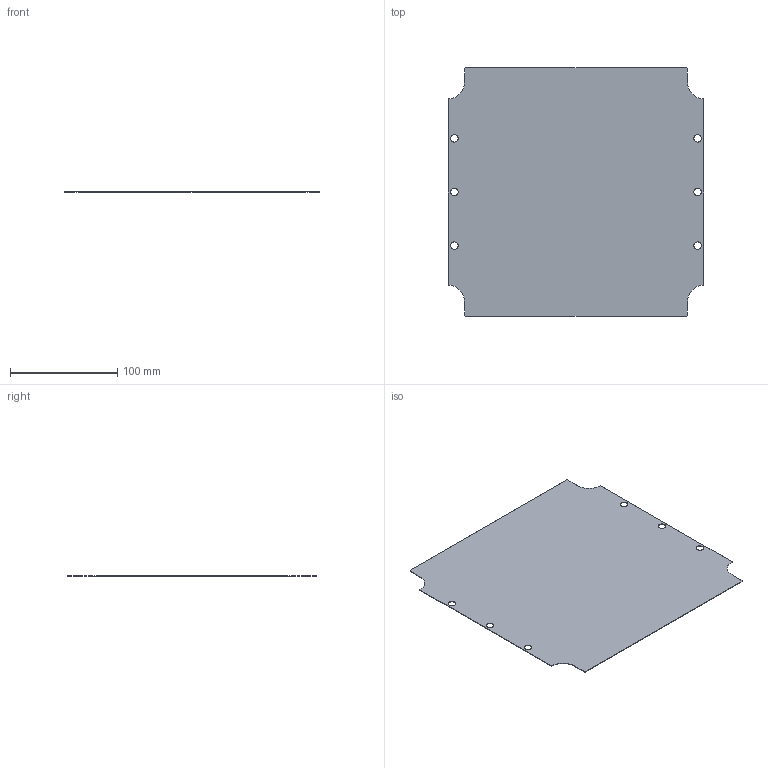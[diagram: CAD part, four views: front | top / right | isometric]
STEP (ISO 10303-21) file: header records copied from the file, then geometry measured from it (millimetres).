
FILE_DESCRIPTION((''),'2;1');
FILE_NAME('c:\temp\235PL.stp','2006-07-18T13:50:49',('kbond'),(''),'Autodesk Inventor 11','Autodesk Inventor 11','');
FILE_SCHEMA(('AUTOMOTIVE_DESIGN { 1 0 10303 214 1 1 1 1 }'));
Length unit declared in the file: millimetre
Products named in the file (1): 235PL
Bounding box: 238 x 232 x 0.5 mm (x, y, z)
Volume: 26718.1 mm3; surface area: 107394.4 mm2
Topology: 1 solids, 1 shells, 24 faces, 72 edges, 50 vertices
Faces by surface type: plane 14, bspline 6, cylinder 4
Entity records: 865 total; most frequent: CARTESIAN_POINT 231, ORIENTED_EDGE 120, DIRECTION 118, EDGE_CURVE 60, VERTEX_POINT 44, EDGE_LOOP 42, VECTOR 40, LINE 40
